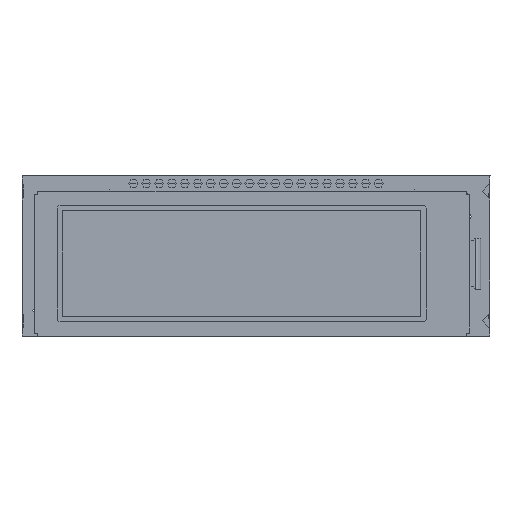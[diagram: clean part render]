
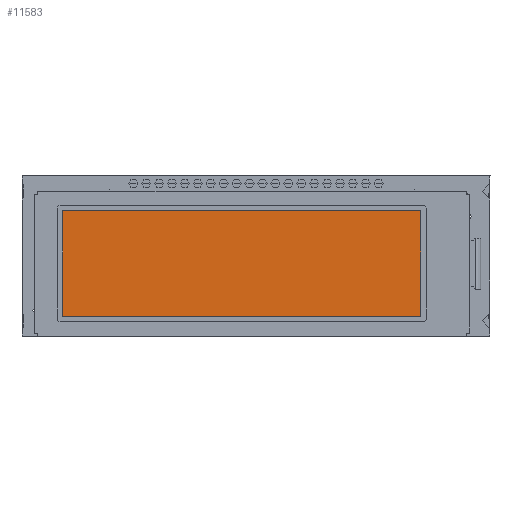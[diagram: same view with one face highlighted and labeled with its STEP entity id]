
A CAD part, top view. The second image highlights one B-rep face of the part: STEP entity #11583.
In plain terms, the highlighted planar face has unit normal (0, 0, 1).
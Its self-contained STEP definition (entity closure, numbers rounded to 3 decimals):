
#127 = EDGE_CURVE ( 'NONE', #37413, #37291, #22354, .T. ) ;
#761 = ORIENTED_EDGE ( 'NONE', *, *, #127, .T. ) ;
#1139 = EDGE_CURVE ( 'NONE', #44041, #37413, #35051, .T. ) ;
#2586 = CARTESIAN_POINT ( 'NONE',  ( -8.887, 40.911, 73.459 ) ) ;
#2691 = ORIENTED_EDGE ( 'NONE', *, *, #1139, .T. ) ;
#3796 = VECTOR ( 'NONE', #36333, 1000. ) ;
#4057 = ORIENTED_EDGE ( 'NONE', *, *, #60952, .T. ) ;
#5719 = DIRECTION ( 'NONE',  ( 0., 0., -1. ) ) ;
#6548 = LINE ( 'NONE', #46469, #50958 ) ;
#8919 = VECTOR ( 'NONE', #24903, 1000. ) ;
#11583 = ADVANCED_FACE ( 'NONE', ( #35498 ), #35814, .F. ) ;
#15337 = CARTESIAN_POINT ( 'NONE',  ( 61.533, 61.731, 73.459 ) ) ;
#16716 = LINE ( 'NONE', #36644, #3796 ) ;
#17148 = CARTESIAN_POINT ( 'NONE',  ( -8.887, 61.731, 73.459 ) ) ;
#22354 = LINE ( 'NONE', #17148, #36058 ) ;
#24799 = CARTESIAN_POINT ( 'NONE',  ( -8.887, 61.731, 73.459 ) ) ;
#24903 = DIRECTION ( 'NONE',  ( 0., 1., 0. ) ) ;
#30590 = CARTESIAN_POINT ( 'NONE',  ( 37.152, 44.032, 73.459 ) ) ;
#31743 = DIRECTION ( 'NONE',  ( 1., 0., 0. ) ) ;
#33078 = EDGE_LOOP ( 'NONE', ( #42717, #4057, #2691, #761 ) ) ;
#34273 = AXIS2_PLACEMENT_3D ( 'NONE', #30590, #5719, #40747 ) ;
#35051 = LINE ( 'NONE', #55690, #8919 ) ;
#35498 = FACE_OUTER_BOUND ( 'NONE', #33078, .T. ) ;
#35814 = PLANE ( 'NONE',  #34273 ) ;
#36058 = VECTOR ( 'NONE', #37098, 1000. ) ;
#36333 = DIRECTION ( 'NONE',  ( 0., -1., 0. ) ) ;
#36644 = CARTESIAN_POINT ( 'NONE',  ( -8.887, 40.911, 73.459 ) ) ;
#37098 = DIRECTION ( 'NONE',  ( -1., 0., 0. ) ) ;
#37291 = VERTEX_POINT ( 'NONE', #24799 ) ;
#37413 = VERTEX_POINT ( 'NONE', #15337 ) ;
#40747 = DIRECTION ( 'NONE',  ( -1., 0., 0. ) ) ;
#42717 = ORIENTED_EDGE ( 'NONE', *, *, #58529, .T. ) ;
#44041 = VERTEX_POINT ( 'NONE', #46686 ) ;
#46469 = CARTESIAN_POINT ( 'NONE',  ( 61.533, 40.911, 73.459 ) ) ;
#46686 = CARTESIAN_POINT ( 'NONE',  ( 61.533, 40.911, 73.459 ) ) ;
#50958 = VECTOR ( 'NONE', #31743, 1000. ) ;
#52721 = VERTEX_POINT ( 'NONE', #2586 ) ;
#55690 = CARTESIAN_POINT ( 'NONE',  ( 61.533, 61.731, 73.459 ) ) ;
#58529 = EDGE_CURVE ( 'NONE', #37291, #52721, #16716, .T. ) ;
#60952 = EDGE_CURVE ( 'NONE', #52721, #44041, #6548, .T. ) ;
